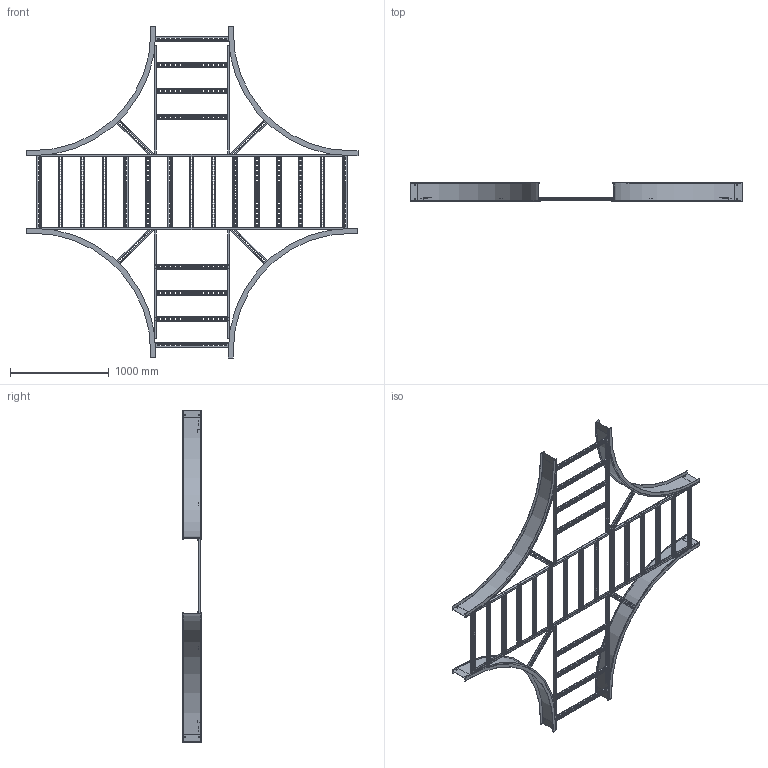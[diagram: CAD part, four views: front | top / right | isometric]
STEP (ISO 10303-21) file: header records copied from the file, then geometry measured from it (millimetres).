
FILE_DESCRIPTION((''),'2;1');
FILE_NAME('AHF730LHX48_ASM','2010-01-27T',('erouzier'),(''),'PRO/ENGINEER BY PARAMETRIC TECHNOLOGY CORPORATION, 2008510','PRO/ENGINEER BY PARAMETRIC TECHNOLOGY CORPORATION, 2008510','');
FILE_SCHEMA(('CONFIG_CONTROL_DESIGN'));
Length unit declared in the file: inch
Products named in the file (28): CDS001813-7-90-48-I; CDS002159L30-P_AF15; CDS002159L30-P_AF16; CDS002159L30-P_AF17; CDS002159L30-P_AF18; CDS002159L30-P_AF24; CDS002159L30-P_AF26; CDS002159L30-P_AF28; CDS002159L30-P_AF19; CDS002159L30-P_AF20; CDS002159L30-P_AF21; CDS002159L30-P_AF23; CDS002159L30-P_AF25; CDS002159L30-P_AF27; CDS002159L30-P_AF29; CDS002159L30-P_AF22; CDS000495_GEN_AF18; CDS000495_GEN_AF19; CDS000495_GEN_AF22; CDS000495_GEN_AF23; CDS000495_GEN_AF20; CDS000495_GEN_AF21; CDS002159L24-P_AF6; CDS002159L24-P_AF7; CDS002159L24-P_AF4; CDS002159L24-P_AF5; CDS002159L30-P; AHF730LHX48_ASM
Assembly tree (37 placements, depth 2):
  AHF730LHX48_ASM
    CDS001813-7-90-48-I  x4
    CDS002159L30-P_AF15
    CDS002159L30-P_AF16
    CDS002159L30-P_AF17
    CDS002159L30-P_AF18
    CDS002159L30-P_AF24
    CDS002159L30-P_AF26
    CDS002159L30-P_AF28
    CDS002159L30-P_AF19
    CDS002159L30-P_AF20
    CDS002159L30-P_AF21
    CDS002159L30-P_AF23
    CDS002159L30-P_AF25
    CDS002159L30-P_AF27
    CDS002159L30-P_AF29
    CDS002159L30-P_AF22
    CDS000495_GEN_AF18
    CDS000495_GEN_AF19
    CDS000495_GEN_AF22
    CDS000495_GEN_AF23
    CDS000495_GEN_AF20
    CDS000495_GEN_AF21
    CDS002159L24-P_AF6
    CDS002159L24-P_AF7
    CDS002159L24-P_AF4
    CDS002159L24-P_AF5
    CDS002159L30-P  x8
Bounding box: 3358.39 x 183.9 x 3358.39 mm (x, y, z)
Volume: 10332357 mm3; surface area: 10419104.8 mm2
Topology: 37 solids, 37 shells, 6766 faces, 20076 edges, 13384 vertices
Faces by surface type: plane 3585, cylinder 3181
Entity records: 166808 total; most frequent: CARTESIAN_POINT 29279, ORIENTED_EDGE 28848, DIRECTION 28794, EDGE_CURVE 14424, VECTOR 9820, LINE 9820, VERTEX_POINT 9616, AXIS2_PLACEMENT_3D 9487
